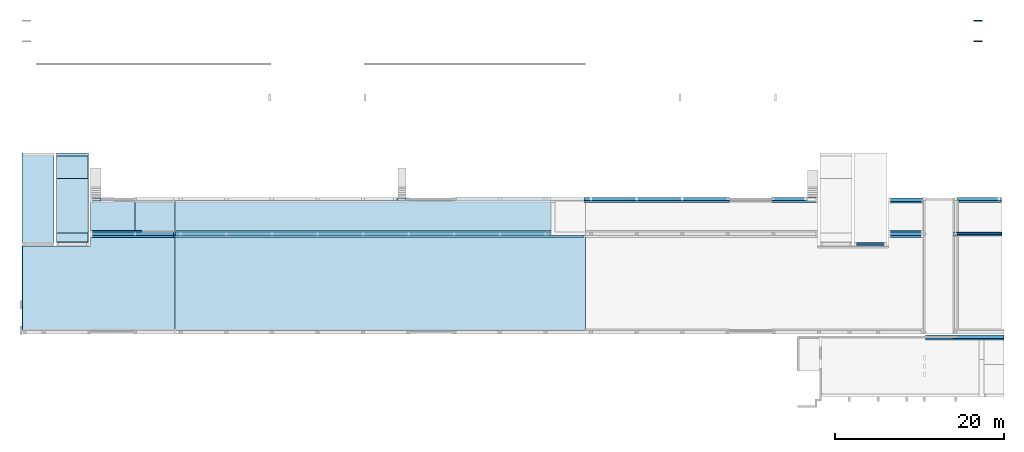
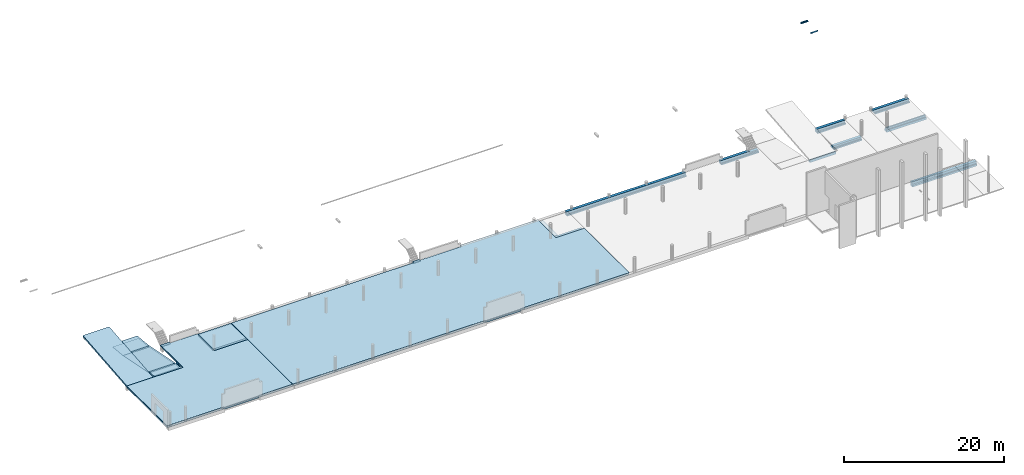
# One storey, part 4 of 9: 17 slabs, 12 beams, 2 openings.
"""IFC2X3 building model written with IfcOpenShell, lengths in millimetres."""

from ifc_helpers import new_model, entity, si_unit, converted_unit, derived_unit, direction, frame, frame_2d, origin, origin_2d_with_axis, place, context, subcontext, project, spatial, polyline, circle_curve, parameter, trimmed, segment, composite_curve, rectangle, outline, extrude, clip, halfspace, faceted_brep, material, layer, layer_set, layer_usage, type_object, element, save


model = new_model("IFC2X3")

# Units and contexts
model_context = context("Model", 3, precision=0.01, world=origin(), true_north=direction((6.12303176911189e-17, 1.0)))
body_context = subcontext(model_context, "Body", "Model", "MODEL_VIEW")
ifc_project = project(units=[si_unit("LENGTHUNIT", "METRE", prefix="MILLI"), si_unit("AREAUNIT", "SQUARE_METRE"), si_unit("VOLUMEUNIT", "CUBIC_METRE"), converted_unit("PLANEANGLEUNIT", "DEGREE", entity("IfcRatioMeasure", 0.0174532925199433), si_unit("PLANEANGLEUNIT", "RADIAN"), dimensions=[0, 0, 0, 0, 0, 0, 0]), si_unit("MASSUNIT", "GRAM", prefix="KILO"), derived_unit("MASSDENSITYUNIT", [(si_unit("MASSUNIT", "GRAM", prefix="KILO"), 1), (si_unit("LENGTHUNIT", "METRE"), -3)]), si_unit("TIMEUNIT", "SECOND"), si_unit("FREQUENCYUNIT", "HERTZ"), si_unit("THERMODYNAMICTEMPERATUREUNIT", "DEGREE_CELSIUS"), derived_unit("THERMALTRANSMITTANCEUNIT", [(si_unit("MASSUNIT", "GRAM", prefix="KILO"), 1), (si_unit("THERMODYNAMICTEMPERATUREUNIT", "KELVIN"), -1), (si_unit("TIMEUNIT", "SECOND"), -3)]), derived_unit("VOLUMETRICFLOWRATEUNIT", [(si_unit("LENGTHUNIT", "METRE"), 3), (si_unit("TIMEUNIT", "SECOND"), -1)]), si_unit("ELECTRICCURRENTUNIT", "AMPERE"), si_unit("ELECTRICVOLTAGEUNIT", "VOLT"), si_unit("POWERUNIT", "WATT"), si_unit("FORCEUNIT", "NEWTON", prefix="KILO"), si_unit("ILLUMINANCEUNIT", "LUX"), si_unit("LUMINOUSFLUXUNIT", "LUMEN"), si_unit("LUMINOUSINTENSITYUNIT", "CANDELA"), derived_unit("USERDEFINED", [(si_unit("MASSUNIT", "GRAM", prefix="KILO"), -1), (si_unit("LENGTHUNIT", "METRE"), -2), (si_unit("TIMEUNIT", "SECOND"), 3), (si_unit("LUMINOUSFLUXUNIT", "LUMEN"), 1)]), derived_unit("LINEARVELOCITYUNIT", [(si_unit("LENGTHUNIT", "METRE"), 1), (si_unit("TIMEUNIT", "SECOND"), -1)]), si_unit("PRESSUREUNIT", "PASCAL"), derived_unit("USERDEFINED", [(si_unit("LENGTHUNIT", "METRE"), -2), (si_unit("MASSUNIT", "GRAM", prefix="KILO"), 1), (si_unit("TIMEUNIT", "SECOND"), -2)])], contexts=[model_context])

# Site, building, storey
site_placement = place(None, origin())
site = spatial("IfcSite", under=ifc_project, at=site_placement, Name="Default", CompositionType="ELEMENT")
building_placement = place(site_placement, origin())
building = spatial("IfcBuilding", under=site, at=building_placement, Name="niet gebruiken", CompositionType="ELEMENT")
storey_placement = place(building_placement, frame((0.0, 0.0, 5570.0)))
storey = spatial("IfcBuildingStorey", under=building, at=storey_placement, Name="01b tweede tussenverdieping", CompositionType="ELEMENT", Elevation=5570.0)

# Beams
ifc_material_1 = material(Name="NLRS_h2_staal")
beam_type_1 = type_object("IfcBeamType", Name="NLRS_28.11_SF_WPB_stalen ligger hoekprofiel gelijkzijdig_gen:ligger gelijzijdig hoekprofiel LEQU_150x150x15", PredefinedType="BEAM")
beam_1_placement = place(storey_placement, frame((120910.0, 46133.5000000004, -330.0)))
element("IfcBeam", 1, at=beam_1_placement, inside=storey, type_object=beam_type_1, material=ifc_material_1, Name="NLRS_28.11_SF_WPB_stalen ligger hoekprofiel gelijkzijdig_gen:ligger gelijzijdig hoekprofiel LEQU_150x150x15", ObjectType="NLRS_28.11_SF_WPB_stalen ligger hoekprofiel gelijkzijdig_gen:ligger gelijzijdig hoekprofiel LEQU_150x150x15", context=body_context, shape_type="SweptSolid", body=[
    extrude(outline(composite_curve([segment(polyline([(49.6666666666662, -93.3333333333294), (56.6666666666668, -93.3333333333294)]), True, "CONTINUOUS"), segment(polyline([(56.6666666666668, -93.3333333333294), (56.6666666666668, 56.6666666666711)]), True, "CONTINUOUS"), segment(polyline([(56.6666666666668, 56.6666666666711), (-93.3333333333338, 56.6666666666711)]), True, "CONTINUOUS"), segment(polyline([(-93.3333333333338, 56.6666666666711), (-93.3333333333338, 49.6666666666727)]), True, "CONTINUOUS"), segment(trimmed(circle_curve(frame_2d((-85.3333333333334, 49.6666666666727), x_axis=(-1.0, 0.0)), 7.99999999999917), [parameter(0.0)], [parameter(90.0000000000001)], True, "PARAMETER"), True, "CONTINUOUS"), segment(polyline([(-85.3333333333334, 41.6666666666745), (25.6666666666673, 41.6666666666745)]), True, "CONTINUOUS"), segment(trimmed(circle_curve(frame_2d((25.6666666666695, 25.6666666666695), x_axis=(0.0, 1.0)), 15.9999999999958), [parameter(269.999999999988)], [parameter(0.0)], True, "PARAMETER"), False, "CONTINUOUS"), segment(polyline([(41.6666666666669, 25.6666666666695), (41.6666666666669, -85.3333333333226)]), True, "CONTINUOUS"), segment(trimmed(circle_curve(frame_2d((49.6666666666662, -85.3333333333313), x_axis=(-1.0, 0.0)), 7.99999999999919), [parameter(0.0)], [parameter(90.0000000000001)], True, "PARAMETER"), True, "CONTINUOUS")], self_intersect=False)), frame((0.0, -14.1666666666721, 56.6666666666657), z_axis=(1.0, 0.0, 0.0), x_axis=(0.0, 0.0, -1.0)), (0.0, 0.0, 1.0), 999.999999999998),
])
beam_2_placement = place(storey_placement, frame((120910.0, 43618.5000000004, -330.0)))
element("IfcBeam", 2, at=beam_2_placement, inside=storey, type_object=beam_type_1, material=ifc_material_1, Name="NLRS_28.11_SF_WPB_stalen ligger hoekprofiel gelijkzijdig_gen:ligger gelijzijdig hoekprofiel LEQU_150x150x15", ObjectType="NLRS_28.11_SF_WPB_stalen ligger hoekprofiel gelijkzijdig_gen:ligger gelijzijdig hoekprofiel LEQU_150x150x15", context=body_context, shape_type="SweptSolid", body=[
    extrude(outline(composite_curve([segment(polyline([(-93.3333333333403, -56.6666666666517), (56.6666666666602, -56.6666666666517)]), True, "CONTINUOUS"), segment(polyline([(56.6666666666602, -56.666666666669), (56.6666666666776, 93.3333333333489)]), True, "CONTINUOUS"), segment(polyline([(56.6666666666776, 93.3333333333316), (49.666666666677, 93.3333333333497)]), True, "CONTINUOUS"), segment(trimmed(circle_curve(frame_2d((49.6666666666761, 85.3333333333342), x_axis=(0.0, 1.0)), 7.99999999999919), [parameter(0.0)], [parameter(90.0000000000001)], True, "PARAMETER"), True, "CONTINUOUS"), segment(polyline([(41.6666666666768, 85.3333333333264), (41.666666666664, -25.666666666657)]), True, "CONTINUOUS"), segment(trimmed(circle_curve(frame_2d((25.6666666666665, -25.6666666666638), x_axis=(1.0, 0.0)), 15.9999999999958), [parameter(269.999999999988)], [parameter(0.0)], True, "PARAMETER"), False, "CONTINUOUS"), segment(polyline([(25.6666666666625, -41.6666666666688), (-85.3333333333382, -41.6666666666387)]), True, "CONTINUOUS"), segment(trimmed(circle_curve(frame_2d((-85.3333333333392, -49.6666666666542), x_axis=(0.0, 1.0)), 7.99999999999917), [parameter(0.0)], [parameter(90.0000000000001)], True, "PARAMETER"), True, "CONTINUOUS"), segment(polyline([(-93.3333333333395, -49.6666666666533), (-93.3333333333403, -56.666666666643)]), True, "CONTINUOUS")], self_intersect=False)), frame((0.0, 14.1666666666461, 56.6666666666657), z_axis=(1.0, 0.0, 0.0), x_axis=(0.0, 0.0, -1.0)), (0.0, 0.0, 1.0), 1000.0),
])
ifc_material_2 = material(Name="NLRS_f2_beton prefab")
beam_type_2 = type_object("IfcBeamType", Name="NLRS_28.11_SF_WPB_prefabbeton balk enkele sponning_gen:600x540/200x200", PredefinedType="BEAM")
beam_3_placement = place(storey_placement, frame((74750.0, 24576.0, -530.0)))
element("IfcBeam", 3, at=beam_3_placement, inside=storey, type_object=beam_type_2, material=ifc_material_2, Name="NLRS_28.11_SF_WPB_prefabbeton balk enkele sponning_gen:600x540/200x200", ObjectType="NLRS_28.11_SF_WPB_prefabbeton balk enkele sponning_gen:600x540/200x200", context=body_context, shape_type="Brep", body=[
    faceted_brep([(0.0, 600.0, 0.0), (0.0, 0.0, 0.0), (0.0, 0.0, 200.0), (0.0, 200.0, 200.0), (0.0, 200.0, 460.0), (0.0, 200.0, 530.0), (0.0, 200.0, 540.0), (0.0, 600.0, 540.0), (17250.0, 200.0, 200.0), (17250.0, 0.0, 200.0), (17250.0, 0.0, 0.0), (17250.0, 600.0, 0.0), (17250.0, 600.0, 540.0), (17250.0, 200.0, 540.0), (17250.0, 200.0, 530.0), (17250.0, 275.0, 530.0), (17250.0, 275.0, 460.0), (17250.0, 200.0, 460.0), (17230.0, 200.0, 460.0), (17230.0, 200.0, 530.0), (17230.0, 275.0, 460.0), (17230.0, 275.0, 530.0)], [[[0, 1, 2, 3, 4, 5, 6, 7]], [[8, 9, 10, 11, 12, 13, 14, 15, 16, 17]], [[7, 6, 13, 12]], [[13, 6, 5, 4, 3, 8, 17, 18, 19, 14]], [[3, 2, 9, 8]], [[2, 1, 10, 9]], [[1, 0, 11, 10]], [[0, 7, 12, 11]], [[20, 18, 17, 16]], [[18, 20, 21, 19]], [[21, 20, 16, 15]], [[19, 21, 15, 14]]]),
])
beam_4_placement = place(storey_placement, frame((110845.0, 24801.0, 10.0)))
element("IfcBeam", 4, at=beam_4_placement, inside=storey, type_object=beam_type_2, material=ifc_material_2, Name="NLRS_28.11_SF_WPB_prefabbeton balk enkele sponning_gen:600x540/200x200", ObjectType="NLRS_28.11_SF_WPB_prefabbeton balk enkele sponning_gen:600x540/200x200", context=body_context, shape_type="SweptSolid", body=[
    extrude(outline(polyline([(46.6666666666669, -266.666666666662), (246.666666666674, -266.666666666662), (246.666666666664, 333.333333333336), (-293.333333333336, 333.333333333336), (-293.333333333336, -66.6666666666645), (46.6666666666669, -66.6666666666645), (46.6666666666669, -266.666666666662)])), frame((0.0, -33.3333333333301, -293.333333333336), z_axis=(1.0, 0.0, 0.0), x_axis=(0.0, 0.0, -1.0)), (0.0, 0.0, 1.0), 4085.00081391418),
])
beam_5_placement = place(storey_placement, frame((119020.0, 24576.0, -530.0)))
element("IfcBeam", 5, at=beam_5_placement, inside=storey, type_object=beam_type_2, material=ifc_material_2, Name="NLRS_28.11_SF_WPB_prefabbeton balk enkele sponning_gen:600x540/200x200", ObjectType="NLRS_28.11_SF_WPB_prefabbeton balk enkele sponning_gen:600x540/200x200", context=body_context, shape_type="Brep", body=[
    faceted_brep([(0.0, 200.0, 540.0), (0.0, 600.0, 540.0), (0.0, 600.0, 225.0), (0.0, 200.0, 225.0), (5180.0, 200.0, 540.0), (5180.0, 200.0, 200.0), (5180.0, 0.0, 200.0), (5180.0, 0.0, 0.0), (5180.0, 600.0, 0.0), (5180.0, 600.0, 540.0), (150.0, 200.0, 225.0), (150.0, 200.0, 200.0), (150.0, 0.0, 200.0), (150.0, 0.0, 0.0), (150.0, 600.0, 0.0), (150.0, 600.0, 225.0)], [[[0, 1, 2, 3]], [[4, 5, 6, 7, 8, 9]], [[1, 0, 4, 9]], [[5, 4, 0, 3, 10, 11]], [[6, 5, 11, 12]], [[7, 6, 12, 13]], [[8, 7, 13, 14]], [[9, 8, 14, 15, 2, 1]], [[15, 10, 3, 2]], [[10, 15, 14, 13, 12, 11]]]),
])
beam_6_placement = place(storey_placement, frame((97000.0, 24576.0, -530.0)))
element("IfcBeam", 6, at=beam_6_placement, inside=storey, type_object=beam_type_2, material=ifc_material_2, Name="NLRS_28.11_SF_WPB_prefabbeton balk enkele sponning_gen:600x540/200x200", ObjectType="NLRS_28.11_SF_WPB_prefabbeton balk enkele sponning_gen:600x540/200x200", context=body_context, shape_type="Brep", body=[
    faceted_brep([(0.0, 600.0, 0.0), (0.0, 0.0, 0.0), (0.0, 0.0, 200.0), (0.0, 200.0, 200.0), (0.0, 200.0, 460.0), (0.0, 200.0, 530.0), (0.0, 200.0, 540.0), (0.0, 600.0, 540.0), (5455.0, 200.0, 200.0), (5455.0, 0.0, 200.0), (5455.0, 0.0, 0.0), (5455.0, 600.0, 0.0), (5455.0, 600.0, 390.0), (5455.0, 200.0, 390.0), (4205.0, 200.0, 540.0), (4205.0, 600.0, 540.0), (4205.0, 200.0, 390.0), (4205.0, 200.0, 460.0), (4205.0, 200.0, 530.0), (4205.0, 600.0, 390.0)], [[[0, 1, 2, 3, 4, 5, 6, 7]], [[8, 9, 10, 11, 12, 13]], [[7, 6, 14, 15]], [[3, 8, 13, 16, 17, 18, 14, 6, 5, 4]], [[3, 2, 9, 8]], [[2, 1, 10, 9]], [[1, 0, 11, 10]], [[0, 7, 15, 19, 12, 11]], [[15, 14, 18, 17, 16, 19]], [[19, 16, 13, 12]]]),
])
beam_type_3 = type_object("IfcBeamType", Name="NLRS_28.11_SF_WPB_prefabbeton balk dubbele sponning_gen:800x460/200x260/200x260", PredefinedType="BEAM")
beam_7_placement = place(storey_placement, frame((26150.0, 20446.0, -530.0)))
element("IfcBeam", 7, at=beam_7_placement, inside=storey, type_object=beam_type_3, material=ifc_material_2, Name="NLRS_28.11_SF_WPB_prefabbeton balk dubbele sponning_gen:800x460/200x260/200x260", ObjectType="NLRS_28.11_SF_WPB_prefabbeton balk dubbele sponning_gen:800x460/200x260/200x260", context=body_context, shape_type="Brep", body=[
    faceted_brep([(0.0, 600.0, 460.0), (0.0, 600.0, 0.0), (0.0, 0.0, 0.0), (0.0, 0.0, 200.0), (0.0, 200.0, 200.0), (0.0, 200.0, 460.0), (48580.0, 600.0, 460.0), (48580.0, 200.0, 460.0), (48580.0, 200.0, 200.0), (48580.0, 0.0, 200.0), (48580.0, 0.0, 0.0), (48580.0, 800.0, 0.0), (48580.0, 800.0, 200.0), (48580.0, 600.0, 200.0), (220.0, 600.0, 200.0), (220.0, 600.0, 0.0), (220.0, 800.0, 200.0), (220.0, 800.0, 0.0)], [[[0, 1, 2, 3, 4, 5]], [[6, 7, 8, 9, 10, 11, 12, 13]], [[6, 0, 5, 7]], [[3, 2, 10, 9]], [[6, 13, 14, 15, 1, 0]], [[13, 12, 16, 14]], [[5, 4, 8, 7]], [[4, 3, 9, 8]], [[12, 11, 17, 16]], [[11, 10, 2, 1, 15, 17]], [[15, 14, 16, 17]]]),
])
beam_8_placement = place(storey_placement, frame((16345.0, 20446.0, -530.0)))
element("IfcBeam", 8, at=beam_8_placement, inside=storey, type_object=beam_type_3, material=ifc_material_2, Name="NLRS_28.11_SF_WPB_prefabbeton balk dubbele sponning_gen:800x460/200x260/200x260", ObjectType="NLRS_28.11_SF_WPB_prefabbeton balk dubbele sponning_gen:800x460/200x260/200x260", context=body_context, shape_type="Brep", body=[
    faceted_brep([(0.0, 600.0, 460.0), (0.0, 600.0, 200.0), (0.0, 800.0, 200.0), (0.0, 800.0, 0.0), (0.0, 0.0, 0.0), (0.0, 0.0, 200.0), (0.0, 200.0, 200.0), (0.0, 200.0, 460.0), (9785.0, 600.0, 0.0), (9785.0, 600.0, 460.0), (9785.0, 200.0, 460.0), (9785.0, 200.0, 200.0), (9785.0, 0.0, 200.0), (9785.0, 0.0, 0.0), (6105.0, 600.0, 0.0), (6105.0, 600.0, 200.0), (6105.0, 800.0, 200.0), (6105.0, 800.0, 0.0)], [[[0, 1, 2, 3, 4, 5, 6, 7]], [[8, 9, 10, 11, 12, 13]], [[9, 0, 7, 10]], [[5, 4, 13, 12]], [[1, 0, 9, 8, 14, 15]], [[2, 1, 15, 16]], [[7, 6, 11, 10]], [[6, 5, 12, 11]], [[3, 2, 16, 17]], [[4, 3, 17, 14, 8, 13]], [[15, 14, 17, 16]]]),
])
beam_9_placement = place(storey_placement, frame((110845.000406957, 20846.0, -70.0)))
element("IfcBeam", 9, at=beam_9_placement, inside=storey, type_object=beam_type_3, material=ifc_material_2, Name="NLRS_28.11_SF_WPB_prefabbeton balk dubbele sponning_gen:800x460/200x260/200x260", ObjectType="NLRS_28.11_SF_WPB_prefabbeton balk dubbele sponning_gen:800x460/200x260/200x260", context=body_context, shape_type="SweptSolid", body=[
    extrude(outline(polyline([(15.0, -400.0), (215.0, -400.0), (215.0, 400.0), (15.0, 400.0), (15.0, 200.0), (-245.0, 200.0), (-245.0, -200.0), (15.0, -200.0), (15.0, -400.0)])), frame((0.0, 0.0, -245.0), z_axis=(1.0, 0.0, 0.0), x_axis=(0.0, 0.0, -1.0)), (0.0, 0.0, 1.0), 4085.00040695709),
])
beam_type_4 = type_object("IfcBeamType", Name="NLRS_28.11_SF_WPB_prefabbeton balk enkele sponning_gen:600x600/200x330", PredefinedType="BEAM")
beam_10_placement = place(storey_placement, frame((115200.0, 8271.0, -360.0)))
element("IfcBeam", 10, at=beam_10_placement, inside=storey, type_object=beam_type_4, material=ifc_material_2, Name="NLRS_28.11_SF_WPB_prefabbeton balk enkele sponning_gen:600x600/200x330", ObjectType="NLRS_28.11_SF_WPB_prefabbeton balk enkele sponning_gen:600x600/200x330", context=body_context, shape_type="Brep", body=[
    faceted_brep([(0.0, 600.0, 600.0), (0.0, 600.0, 0.0), (0.0, 0.0, 0.0), (0.0, 0.0, 270.0), (0.0, 200.0, 270.0), (0.0, 200.0, 280.0), (0.0, 225.0, 280.0), (0.0, 225.0, 600.0), (9310.0, 200.0, 270.0), (9310.0, 200.0, 600.0), (3260.0, 200.0, 600.0), (3260.0, 200.0, 280.0), (9310.0, 600.0, 600.0), (9310.0, 0.0, 270.0), (9310.0, 0.0, 0.0), (9310.0, 600.0, 0.0), (6345.0, 600.0, 600.0), (3800.0, 600.0, 600.0), (3260.0, 225.0, 600.0), (3260.0, 225.0, 280.0)], [[[0, 1, 2, 3, 4, 5, 6, 7]], [[8, 9, 10, 11, 5, 4]], [[12, 9, 8, 13, 14, 15]], [[9, 12, 16, 17, 0, 7, 18, 10]], [[4, 3, 13, 8]], [[14, 13, 3, 2]], [[2, 1, 15, 14]], [[1, 0, 17, 16, 12, 15]], [[11, 19, 6, 5]], [[19, 18, 7, 6]], [[18, 19, 11, 10]]]),
])
beam_type_5 = type_object("IfcBeamType", Name="NLRS_28.11_SF_WPB_prefabbeton balk dubbele sponning_gen:500x600/150x270/150x270", PredefinedType="BEAM")
beam_11_placement = place(storey_placement, frame((118555.0, 20596.0, -670.0)))
element("IfcBeam", 11, at=beam_11_placement, inside=storey, type_object=beam_type_5, material=ifc_material_2, Name="NLRS_28.11_SF_WPB_prefabbeton balk dubbele sponning_gen:500x600/150x270/150x270", ObjectType="NLRS_28.11_SF_WPB_prefabbeton balk dubbele sponning_gen:500x600/150x270/150x270", context=body_context, shape_type="Brep", body=[
    faceted_brep([(0.0, 350.0, 330.0), (0.0, 500.0, 330.0), (0.0, 500.0, 0.0), (0.0, 0.0, 0.0), (0.0, 0.0, 330.0), (0.0, 150.0, 330.0), (0.0, 150.0, 450.0), (0.0, 150.0, 470.0), (0.0, 350.0, 470.0), (0.0, 350.0, 450.0), (595.0, 0.0, 0.0), (5725.0, 0.0, 0.0), (5725.0, 0.0, 330.0), (595.0, 0.0, 330.0), (395.0, 0.0, 330.0), (5725.0, 150.0, 600.0), (5725.0, 150.0, 330.0), (5725.0, 500.0, 0.0), (5725.0, 500.0, 330.0), (5725.0, 350.0, 330.0), (5725.0, 350.0, 600.0), (395.0, 350.0, 600.0), (95.0, 350.0, 600.0), (75.0, 350.0, 600.0), (75.0, 150.0, 600.0), (95.0, 150.0, 600.0), (395.0, 150.0, 600.0), (395.0, 350.0, 330.0), (75.0, 350.0, 470.0), (75.0, 350.0, 540.0), (595.0, 500.0, 330.0), (395.0, 500.0, 330.0), (75.0, 150.0, 540.0), (75.0, 150.0, 470.0), (395.0, 150.0, 330.0), (595.0, 500.0, 0.0)], [[[0, 1, 2, 3, 4, 5, 6, 7, 8, 9]], [[4, 3, 10, 11, 12, 13, 14]], [[15, 16, 12, 11, 17, 18, 19, 20]], [[15, 20, 21, 22, 23, 24, 25, 26]], [[20, 19, 27, 0, 9, 8, 28, 29, 23, 22, 21]], [[1, 0, 27, 19, 18, 30, 31]], [[16, 15, 26, 25, 24, 32, 33, 7, 6, 5, 34]], [[5, 4, 14, 13, 12, 16, 34]], [[2, 1, 31, 30, 18, 17, 35]], [[3, 2, 35, 17, 11, 10]], [[33, 28, 8, 7]], [[28, 33, 32, 24, 23, 29]]]),
])
beam_type_6 = type_object("IfcBeamType", Name="NLRS_28.11_SF_WPB_prefabbeton balk enkele sponning_gen:380x370/180x150", PredefinedType="BEAM")
beam_12_placement = place(storey_placement, frame((110555.0, 19616.0, -80.0), z_axis=(0.0, 0.0, 1.0), x_axis=(-1.0, 0.0, 0.0)))
element("IfcBeam", 12, at=beam_12_placement, inside=storey, type_object=beam_type_6, material=ifc_material_2, Name="NLRS_28.11_SF_WPB_prefabbeton balk enkele sponning_gen:380x370/180x150", ObjectType="NLRS_28.11_SF_WPB_prefabbeton balk enkele sponning_gen:380x370/180x150", context=body_context, shape_type="SweptSolid", body=[
    extrude(outline(polyline([(-23.3333333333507, -186.66666666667), (196.666666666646, -186.66666666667), (196.666666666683, 193.333333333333), (-173.333333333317, 193.333333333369), (-173.333333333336, -6.66666666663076), (-23.3333333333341, -6.66666666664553), (-23.3333333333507, -186.66666666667)])), frame((0.0, -3.33333333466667, -173.333333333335), z_axis=(1.0, 0.0, 0.0), x_axis=(0.0, 0.0, -1.0)), (0.0, 0.0, 1.0), 3759.99999999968),
])

# Slabs
ifc_layer_1 = layer(ifc_material_2, 255.0)
ifc_layer_set_1 = layer_set([ifc_layer_1], Name="Floor:NLRS_23.21_FL_kanaalplaat d=255_gen")
ifc_layer_usage_1 = layer_usage(ifc_layer_set_1, "AXIS3", "POSITIVE", 0.0)
slab_1_placement = place(storey_placement, origin())
element("IfcSlab", 13, at=slab_1_placement, inside=storey, material=ifc_layer_usage_1, Name="Floor:NLRS_23.21_FL_kanaalplaat d=255_gen", ObjectType="Floor:NLRS_23.21_FL_kanaalplaat d=255_gen", PredefinedType="FLOOR", context=body_context, shape_type="SweptSolid", body=[
    extrude(outline(polyline([(-4225.0, -9503.0), (5765.0, -9503.0), (5765.0, -1403.0), (6985.0, -1403.0), (6985.0, 8602.0), (-4225.0, 8602.0), (-4225.0, 3632.0), (-4300.0, 3632.0), (-4300.0, -1328.0), (-4225.0, -1328.0), (-4225.0, -9503.0)])), frame((17748.0, 13641.0, -70.0), z_axis=(0.0, 0.0, -1.0), x_axis=(0.0, 1.0, 0.0)), (0.0, 0.0, 1.0), 255.000000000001),
])
ifc_layer_usage_2 = layer_usage(ifc_layer_set_1, "AXIS3", "POSITIVE", 0.0)
slab_2_placement = place(storey_placement, origin())
element("IfcSlab", 14, at=slab_2_placement, inside=storey, material=ifc_layer_usage_2, Name="Floor:NLRS_23.21_FL_kanaalplaat d=255_gen", ObjectType="Floor:NLRS_23.21_FL_kanaalplaat d=255_gen", PredefinedType="FLOOR", context=body_context, shape_type="SweptSolid", body=[
    extrude(outline(polyline([(-2783.7499999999, -27310.0), (8426.2500000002, -27310.0), (8426.25000000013, 21270.0), (-2783.74999999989, 21270.0), (-2783.74999999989, 5500.0), (-2858.75000000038, 5500.0), (-2858.75000000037, 540.0), (-2783.74999999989, 540.0), (-2783.7499999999, -27310.0)])), frame((53680.0, 12199.7500000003, -70.0), z_axis=(0.0, 0.0, -1.0), x_axis=(0.0, 1.0, 0.0)), (0.0, 0.0, 1.0), 255.000000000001),
])
ifc_material_3 = material(Name="NLRS_f2_beton ihwg")
ifc_layer_2 = layer(ifc_material_3, 70.0)
ifc_layer_set_2 = layer_set([ifc_layer_2], Name="Floor:NLRS_23.21_FL_druklaag d=70 - gevlinderd en ingestrooid_gen")
ifc_layer_usage_3 = layer_usage(ifc_layer_set_2, "AXIS3", "POSITIVE", 0.0)
slab_3_placement = place(storey_placement, origin())
element("IfcSlab", 15, at=slab_3_placement, inside=storey, material=ifc_layer_usage_3, Name="Floor:NLRS_23.21_FL_druklaag d=70 - gevlinderd en ingestrooid_gen", ObjectType="Floor:NLRS_23.21_FL_druklaag d=70 - gevlinderd en ingestrooid_gen", PredefinedType="FLOOR", context=body_context, shape_type="SweptSolid", body=[
    extrude(outline(polyline([(-7474.28571428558, -10041.4285714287), (2555.71428571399, -10041.4285714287), (2555.71428571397, -1941.42857142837), (8205.71428571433, -1941.42857142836), (8205.71428571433, -671.428571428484), (7980.71428571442, -671.428571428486), (7980.71428571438, 3303.57142857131), (3755.71428571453, 3303.57142857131), (3755.71428571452, 8083.57142857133), (-7474.28571428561, 8083.57142857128), (-7474.2857142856, 3133.57142857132), (-7549.28571428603, 3133.57142857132), (-7549.28571428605, -1866.42857142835), (-7474.28571428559, -1866.42857142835), (-7474.28571428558, -10041.4285714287)])), frame((18266.4285714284, 16870.285714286, 0.0), z_axis=(0.0, 0.0, -1.0), x_axis=(0.0, 1.0, 0.0)), (0.0, 0.0, 1.0), 70.0000000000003),
])
ifc_layer_usage_4 = layer_usage(ifc_layer_set_2, "AXIS3", "POSITIVE", 0.0)
slab_4_placement = place(storey_placement, origin())
element("IfcSlab", 16, at=slab_4_placement, inside=storey, material=ifc_layer_usage_4, Name="Floor:NLRS_23.21_FL_druklaag d=70 - gevlinderd en ingestrooid_gen", ObjectType="Floor:NLRS_23.21_FL_druklaag d=70 - gevlinderd en ingestrooid_gen", PredefinedType="FLOOR", context=body_context, shape_type="SweptSolid", body=[
    extrude(outline(polyline([(-9181.24999999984, -30075.0), (6198.74999999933, -30075.0), (6198.74999999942, -3735.0), (6498.75000000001, -3735.0), (6498.75000000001, -2765.0), (6273.75000000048, -2765.0), (6273.75000000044, 3155.0), (6598.74999999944, 3155.0), (6598.74999999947, 14405.0), (2048.7500000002, 14405.0), (2048.75000000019, 18505.0), (-9181.24999999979, 18505.0), (-9181.24999999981, 2755.0), (-9256.2499999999, 2755.0), (-9256.24999999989, -2245.0), (-9181.24999999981, -2245.0), (-9181.24999999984, -30075.0)])), frame((56445.0, 18577.2499999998, 0.0), z_axis=(0.0, 0.0, -1.0), x_axis=(0.0, 1.0, 0.0)), (0.0, 0.0, 1.0), 70.0000000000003),
])
ifc_layer_usage_5 = layer_usage(ifc_layer_set_1, "AXIS3", "POSITIVE", 0.0)
slab_5_placement = place(storey_placement, origin())
element("IfcSlab", 17, at=slab_5_placement, inside=storey, material=ifc_layer_usage_5, Name="Floor:NLRS_23.21_FL_kanaalplaat d=255_gen", ObjectType="Floor:NLRS_23.21_FL_kanaalplaat d=255_gen", PredefinedType="FLOOR", context=body_context, shape_type="SweptSolid", body=[
    extrude(outline(polyline([(-2786.25000000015, -26385.0), (903.749999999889, -26385.0), (903.749999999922, 1365.0), (978.750000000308, 1365.0), (978.750000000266, 6425.0), (903.749999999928, 6425.0), (903.749999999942, 18595.0), (-2786.2500000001, 18595.0), (-2786.25000000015, -26385.0)])), frame((52755.0, 23852.25, -70.0), z_axis=(0.0, 0.0, -1.0), x_axis=(0.0, 1.0, 0.0)), (0.0, 0.0, 1.0), 255.000000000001),
])
ifc_layer_usage_6 = layer_usage(ifc_layer_set_1, "AXIS3", "POSITIVE", 0.0)
slab_6_placement = place(storey_placement, origin())
element("IfcSlab", 18, at=slab_6_placement, inside=storey, material=ifc_layer_usage_6, Name="Floor:NLRS_23.21_FL_kanaalplaat d=255_gen", ObjectType="Floor:NLRS_23.21_FL_kanaalplaat d=255_gen", PredefinedType="FLOOR", context=body_context, shape_type="SweptSolid", body=[
    extrude(outline(polyline([(-2789.1502657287, -2877.50000000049), (902.050088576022, -2877.50000000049), (902.050088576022, -1627.4999999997), (977.050088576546, -1627.4999999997), (977.050088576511, 2157.50000000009), (910.050088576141, 2157.50000000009), (910.050088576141, 2347.50000000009), (-2789.1502657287, 2347.50000000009), (-2789.1502657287, -2877.50000000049)])), frame((19222.4999999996, 23853.9499114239, -70.0), z_axis=(0.0, 0.0, -1.0), x_axis=(0.0, 1.0, 0.0)), (0.0, 0.0, 1.0), 255.000000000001),
])
ifc_layer_3 = layer(ifc_material_3, 250.0)
ifc_layer_set_3 = layer_set([ifc_layer_3], Name="Floor:NLRS_23.21_FL_breedplaat d=70/250_opgeruwd_schil apart_gen")
ifc_layer_usage_7 = layer_usage(ifc_layer_set_3, "AXIS3", "POSITIVE", 0.0)
slab_7_placement = place(storey_placement, frame((12275.0, 19426.0, -401.246890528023)))
element("IfcSlab", 19, at=slab_7_placement, inside=storey, material=ifc_layer_usage_7, Name="Floor:NLRS_23.21_FL_breedplaat d=70/250_opgeruwd_schil apart_gen", ObjectType="Floor:NLRS_23.21_FL_breedplaat d=70/250_opgeruwd_schil apart_gen", PredefinedType="FLOOR", context=body_context, shape_type="SweptSolid", body=[
    extrude(rectangle(XDim=1507.48134316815, YDim=3799.99999999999, at=frame_2d((0.0, -753.740671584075), x_axis=(0.0, -1.0))), frame((1900.0, 1500.0, 251.246890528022), z_axis=(0.0, 0.0995037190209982, 0.995037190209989), x_axis=(1.0, 0.0, 0.0)), (0.0, 0.0995037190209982, -0.995037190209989), 251.246890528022),
])
ifc_layer_usage_8 = layer_usage(ifc_layer_set_3, "AXIS3", "POSITIVE", 0.0)
slab_8_placement = place(storey_placement, frame((12275.0, 20926.0, -1715.02668383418)))
element("IfcSlab", 20, at=slab_8_placement, inside=storey, material=ifc_layer_usage_8, Name="Floor:NLRS_23.21_FL_breedplaat d=70/250_opgeruwd_schil apart_gen", ObjectType="Floor:NLRS_23.21_FL_breedplaat d=70/250_opgeruwd_schil apart_gen", PredefinedType="FLOOR", context=body_context, shape_type="SweptSolid", body=[
    extrude(rectangle(XDim=6630.69377968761, YDim=3800.0, at=frame_2d((0.0, -3315.34688984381), x_axis=(0.0, -1.0))), frame((1900.0, 6500.0, 255.026683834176), z_axis=(0.0, 0.197566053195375, 0.980289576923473), x_axis=(1.0, 0.0, 0.0)), (0.0, 0.197566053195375, -0.980289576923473), 255.026683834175),
])

# Slab, opening
ifc_layer_usage_9 = layer_usage(ifc_layer_set_3, "AXIS3", "POSITIVE", 0.0)
slab_9_placement = place(storey_placement, frame((12275.0, 27426.0, -2011.24689052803)))
slab_9 = element("IfcSlab", 21, at=slab_9_placement, inside=storey, material=ifc_layer_usage_9, Name="Floor:NLRS_23.21_FL_breedplaat d=70/250_opgeruwd_schil apart_gen", ObjectType="Floor:NLRS_23.21_FL_breedplaat d=70/250_opgeruwd_schil apart_gen", PredefinedType="FLOOR", context=body_context, shape_type="SweptSolid", body=[
    extrude(rectangle(XDim=3799.99999999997, YDim=3014.96268633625, at=frame_2d((0.0, -1507.48134316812), x_axis=(-1.0, 0.0))), frame((1900.0, 3000.0, 251.246890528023), z_axis=(0.0, 0.0995037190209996, 0.995037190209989), x_axis=(1.0, 0.0, 0.0)), (0.0, 0.0995037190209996, -0.995037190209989), 251.246890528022),
])
opening_1_placement = place(slab_9_placement, origin())
element("IfcOpeningElement", 22, at=opening_1_placement, cuts=slab_9, ObjectType="Opening", context=body_context, shape_type="SweptSolid", body=[
    extrude(rectangle(XDim=3760.0, YDim=380.0, at=origin_2d_with_axis()), frame((1900.0, 2810.0, -213.753109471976)), (0.0, 0.0, 1.0), 250.0),
])

# Slabs
ifc_layer_usage_10 = layer_usage(ifc_layer_set_1, "AXIS3", "POSITIVE", 0.0)
slab_10_placement = place(storey_placement, origin())
element("IfcSlab", 23, at=slab_10_placement, inside=storey, material=ifc_layer_usage_10, Name="Floor:NLRS_23.21_FL_kanaalplaat d=255_gen", ObjectType="Floor:NLRS_23.21_FL_kanaalplaat d=255_gen", PredefinedType="FLOOR", context=body_context, shape_type="SweptSolid", body=[
    extrude(rectangle(XDim=3689.99999999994, YDim=4780.00000000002, at=frame_2d((2.1600499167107e-12, 0.0), x_axis=(1.0, 0.0))), frame((23960.0, 22911.0, -70.0), z_axis=(0.0, 0.0, -1.0), x_axis=(0.0, 1.0, 0.0)), (0.0, 0.0, 1.0), 255.000000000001),
])
ifc_layer_usage_11 = layer_usage(ifc_layer_set_2, "AXIS3", "POSITIVE", 0.0)
slab_11_placement = place(storey_placement, origin())
element("IfcSlab", 24, at=slab_11_placement, inside=storey, material=ifc_layer_usage_11, Name="Floor:NLRS_23.21_FL_druklaag d=70 - gevlinderd en ingestrooid_gen", ObjectType="Floor:NLRS_23.21_FL_druklaag d=70 - gevlinderd en ingestrooid_gen", PredefinedType="FLOOR", context=body_context, shape_type="SweptSolid", body=[
    extrude(outline(polyline([(-2791.66666666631, -1650.0), (1433.33333333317, -1650.0), (1433.33333333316, -1450.0), (1358.33333333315, -1450.0), (1358.33333333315, 3100.0), (-2791.66666666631, 3100.0), (-2791.66666666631, -1650.0)])), frame((23250.0, 23417.6666666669, 0.0), z_axis=(0.0, 0.0, -1.0), x_axis=(0.0, 1.0, 0.0)), (0.0, 0.0, 1.0), 70.0000000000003),
])
ifc_layer_4 = layer(ifc_material_2, 70.0)
ifc_layer_set_4 = layer_set([ifc_layer_4], Name="Floor:NLRS_23.21_FL_breedplaatschil d=70_gen")
ifc_layer_usage_12 = layer_usage(ifc_layer_set_4, "AXIS3", "POSITIVE", 0.0)
slab_12_placement = place(storey_placement, origin())
element("IfcSlab", 25, at=slab_12_placement, inside=storey, material=ifc_layer_usage_12, Name="Floor:NLRS_23.21_FL_breedplaatschil d=70_gen", ObjectType="Floor:NLRS_23.21_FL_breedplaatschil d=70_gen", PredefinedType="FLOOR", context=body_context, shape_type="Clipping", body=[
    clip(clip(extrude(rectangle(XDim=1045.18706459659, YDim=3759.99999999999, at=origin_2d_with_axis()), frame((14175.0, 20406.0, -278.955823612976), z_axis=(0.0, -0.0995037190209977, -0.995037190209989), x_axis=(0.0, 0.995037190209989, -0.0995037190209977)), (0.0995037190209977, 0.0, 0.995037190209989), 70.7000000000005), halfspace(frame((14175.0, 20926.0, -401.304952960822), z_axis=(0.0, -0.0995037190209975, -0.995037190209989), x_axis=(0.0, -0.995037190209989, 0.0995037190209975)), False)), halfspace(frame((14175.0, 20926.0, -330.955823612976), z_axis=(0.0, 0.0995037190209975, 0.995037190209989), x_axis=(0.0, 0.995037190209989, -0.0995037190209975)), False)),
])
ifc_layer_usage_13 = layer_usage(ifc_layer_set_4, "AXIS3", "POSITIVE", 0.0)
slab_13_placement = place(storey_placement, origin())
element("IfcSlab", 26, at=slab_13_placement, inside=storey, material=ifc_layer_usage_13, Name="Floor:NLRS_23.21_FL_breedplaatschil d=70_gen", ObjectType="Floor:NLRS_23.21_FL_breedplaatschil d=70_gen", PredefinedType="FLOOR", context=body_context, shape_type="Clipping", body=[
    clip(clip(extrude(rectangle(XDim=6630.69377968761, YDim=3760.0, at=origin_2d_with_axis()), frame((14175.0, 24176.0, -988.619212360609), z_axis=(0.0, -0.197566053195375, -0.980289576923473), x_axis=(0.0, 0.980289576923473, -0.197566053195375)), (0.197566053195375, 0.0, 0.980289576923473), 72.8432426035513), halfspace(frame((14175.0, 27426.0, -1715.02668383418), z_axis=(0.0, -0.197566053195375, -0.980289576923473), x_axis=(0.0, -0.980289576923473, 0.197566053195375)), False)), halfspace(frame((14175.0, 27426.0, -1643.61921236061), z_axis=(0.0, 0.197566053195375, 0.980289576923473), x_axis=(0.0, 0.980289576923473, -0.197566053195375)), False)),
])
ifc_layer_usage_14 = layer_usage(ifc_layer_set_4, "AXIS3", "POSITIVE", 0.0)
slab_14_placement = place(storey_placement, origin())
element("IfcSlab", 27, at=slab_14_placement, inside=storey, material=ifc_layer_usage_14, Name="Floor:NLRS_23.21_FL_breedplaatschil d=70_gen", ObjectType="Floor:NLRS_23.21_FL_breedplaatschil d=70_gen", PredefinedType="FLOOR", context=body_context, shape_type="Clipping", body=[
    clip(clip(extrude(rectangle(XDim=2653.1671639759, YDim=3759.99999999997, at=frame_2d((4.32009983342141e-12, 0.0), x_axis=(1.0, 0.0))), frame((14175.0, 28746.0, -1772.89776118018), z_axis=(0.0, -0.0995037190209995, -0.995037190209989), x_axis=(0.0, 0.995037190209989, -0.0995037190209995)), (0.0995037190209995, 0.0, 0.995037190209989), 70.7000000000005), halfspace(frame((14175.0, 30426.0, -2011.24689052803), z_axis=(0.0, -0.0995037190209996, -0.995037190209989), x_axis=(0.0, -0.995037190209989, 0.0995037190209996)), False)), halfspace(frame((14175.0, 30426.0, -1940.89776118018), z_axis=(0.0, 0.0995037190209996, 0.995037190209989), x_axis=(0.0, 0.995037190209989, -0.0995037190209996)), False)),
])

# Slab, opening
ifc_layer_usage_15 = layer_usage(ifc_layer_set_3, "AXIS3", "POSITIVE", 0.0)
slab_15_placement = place(storey_placement, frame((8225.0, 19426.0, -251.062036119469)))
slab_15 = element("IfcSlab", 28, at=slab_15_placement, inside=storey, material=ifc_layer_usage_15, Name="Floor:NLRS_23.21_FL_breedplaat d=70/250_opgeruwd_schil apart_gen", ObjectType="Floor:NLRS_23.21_FL_breedplaat d=70/250_opgeruwd_schil apart_gen", PredefinedType="FLOOR", context=body_context, shape_type="SweptSolid", body=[
    extrude(rectangle(XDim=3799.99999999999, YDim=11049.0542581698, at=frame_2d((0.0, 5525.08843574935), x_axis=(-1.0, 0.0))), frame((1900.0, -0.558814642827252, 251.062036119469), z_axis=(0.0, -0.0941257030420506, 0.995560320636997), x_axis=(1.0, 0.0, 0.0)), (0.0, -0.0941257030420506, -0.995560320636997), 251.11486950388),
])
opening_2_placement = place(slab_15_placement, origin())
element("IfcOpeningElement", 29, at=opening_2_placement, cuts=slab_15, ObjectType="Opening", context=body_context, shape_type="SweptSolid", body=[
    extrude(rectangle(XDim=3760.0, YDim=380.0, at=origin_2d_with_axis()), frame((1900.0, 190.0, -214.437963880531)), (0.0, 0.0, 1.0), 250.000000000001),
])

# Slabs
ifc_layer_5 = layer(ifc_material_3, 70.0)
ifc_layer_set_5 = layer_set([ifc_layer_5], Name="Floor:NLRS_23.21_FL_druklaag d=70_gen")
ifc_layer_usage_16 = layer_usage(ifc_layer_set_5, "AXIS3", "POSITIVE", 0.0)
slab_16_placement = place(storey_placement, origin())
element("IfcSlab", 30, at=slab_16_placement, inside=storey, material=ifc_layer_usage_16, Name="Floor:NLRS_23.21_FL_druklaag d=70_gen", ObjectType="Floor:NLRS_23.21_FL_druklaag d=70_gen", PredefinedType="FLOOR", context=body_context, shape_type="SweptSolid", body=[
    extrude(rectangle(XDim=320.000000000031, YDim=1269.99999999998, at=frame_2d((0.0, -1.08002495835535e-12), x_axis=(1.0, 0.0))), frame((16960.0, 24916.0, -70.0), z_axis=(0.0, 0.0, -1.0), x_axis=(0.0, 1.0, 0.0)), (0.0, 0.0, 1.0), 70.0000000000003),
])
ifc_layer_usage_17 = layer_usage(ifc_layer_set_5, "AXIS3", "POSITIVE", 0.0)
slab_17_placement = place(storey_placement, origin())
element("IfcSlab", 31, at=slab_17_placement, inside=storey, material=ifc_layer_usage_17, Name="Floor:NLRS_23.21_FL_druklaag d=70_gen", ObjectType="Floor:NLRS_23.21_FL_druklaag d=70_gen", PredefinedType="FLOOR", context=body_context, shape_type="SweptSolid", body=[
    extrude(rectangle(XDim=320.000000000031, YDim=989.999999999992, at=frame_2d((0.0, 4.34852154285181e-12), x_axis=(1.0, 0.0))), frame((53195.0, 24916.0, -70.0), z_axis=(0.0, 0.0, -1.0), x_axis=(0.0, 1.0, 0.0)), (0.0, 0.0, 1.0), 70.0000000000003),
])

save(model, "model.ifc")
